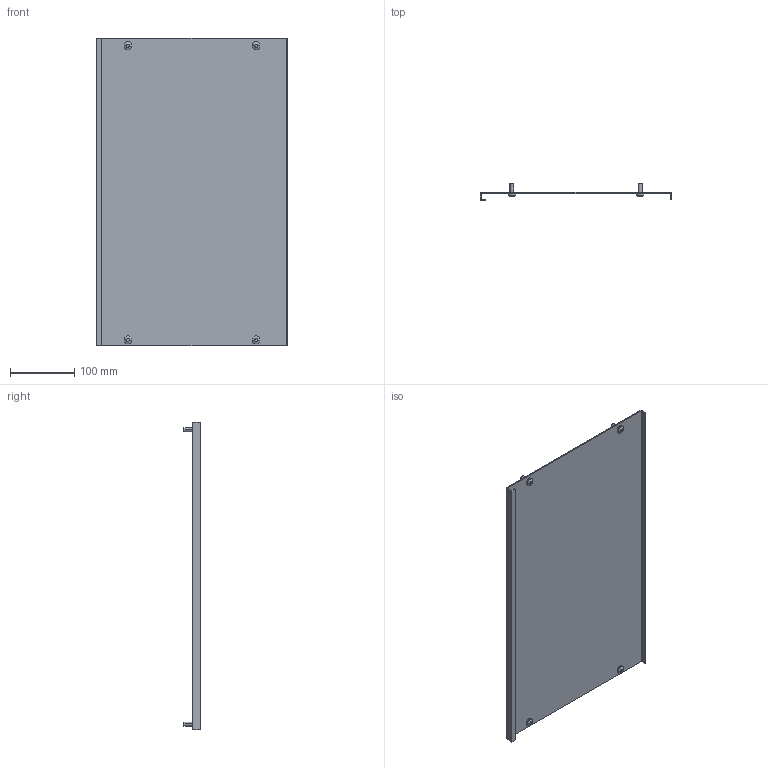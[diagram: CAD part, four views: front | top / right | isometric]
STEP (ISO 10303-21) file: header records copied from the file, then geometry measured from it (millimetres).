
FILE_DESCRIPTION (( 'STEP AP214' ), '1' );
FILE_NAME ('FO-00-PVS-030-060 Ïëàñòðîí ãëóõîé âíóòðåííèé 300õ600.STEP', '2025-09-29T20:08:29', ( '' ), ( '' ), 'SwSTEP 2.0', 'SolidWorks 2023', '' );
FILE_SCHEMA (( 'AUTOMOTIVE_DESIGN' ));
Length unit declared in the file: millimetre
Products named in the file (3): Винт M6x16 30-060 IEK; FO-00-PVS-030-060 Пластрон глухой внутренний 300х600
Assembly tree (3 placements, depth 2):
  FO-00-PVS-030-060 Пластрон глухой внутренний 300х600
    FO-00-PVS-030-060 Пластрон глухой внутренний 300х600
    Винт M6x16 30-060 IEK  x2
Bounding box: 298 x 27 x 479 mm (x, y, z)
Volume: 235638.5 mm3; surface area: 315183.5 mm2
Topology: 5 solids, 5 shells, 150 faces, 392 edges, 256 vertices
Faces by surface type: cylinder 88, plane 42, cone 12, bspline 8
Entity records: 3233 total; most frequent: CARTESIAN_POINT 724, ORIENTED_EDGE 512, DIRECTION 500, EDGE_CURVE 256, AXIS2_PLACEMENT_3D 180, VERTEX_POINT 168, VECTOR 140, LINE 140
